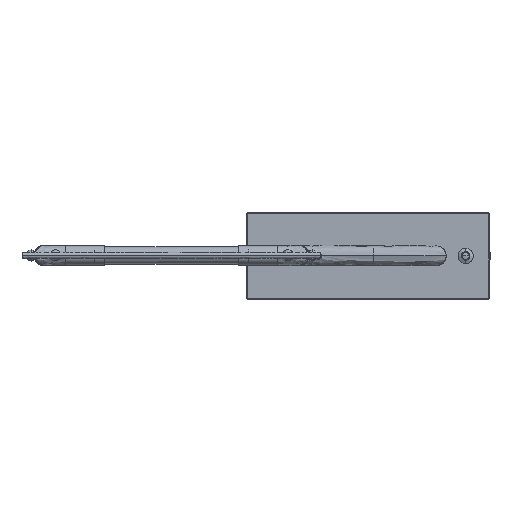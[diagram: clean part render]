
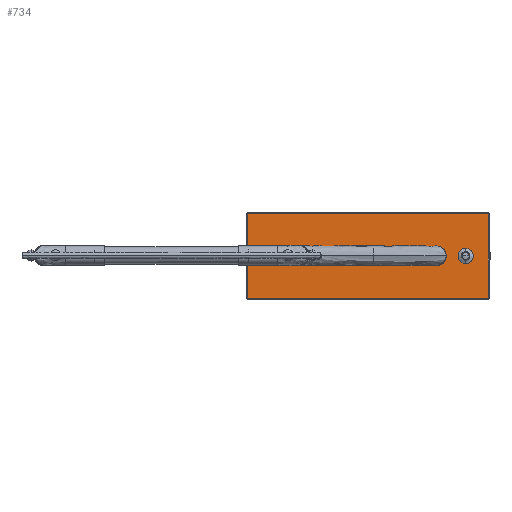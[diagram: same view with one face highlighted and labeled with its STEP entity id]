
A CAD part, top view. The second image highlights one B-rep face of the part: STEP entity #734.
In plain terms, the highlighted planar face has unit normal (0, 0, 1).
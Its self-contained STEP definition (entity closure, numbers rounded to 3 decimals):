
#734=ADVANCED_FACE('',(#1055,#999,#1000,#1001),#4796,.T.);
#999=FACE_BOUND('',#1334,.T.);
#1000=FACE_BOUND('',#1335,.T.);
#1001=FACE_BOUND('',#1336,.T.);
#1055=FACE_OUTER_BOUND('',#1333,.T.);
#1333=EDGE_LOOP('',(#1692,#1693,#1694,#1695));
#1334=EDGE_LOOP('',(#1696,#1697));
#1335=EDGE_LOOP('',(#1698,#1699));
#1336=EDGE_LOOP('',(#1700,#1701,#1702));
#1692=ORIENTED_EDGE('',*,*,#2814,.T.);
#1693=ORIENTED_EDGE('',*,*,#2815,.T.);
#1694=ORIENTED_EDGE('',*,*,#2812,.T.);
#1695=ORIENTED_EDGE('',*,*,#2813,.T.);
#1696=ORIENTED_EDGE('',*,*,#2822,.T.);
#1697=ORIENTED_EDGE('',*,*,#2821,.T.);
#1698=ORIENTED_EDGE('',*,*,#2820,.T.);
#1699=ORIENTED_EDGE('',*,*,#2819,.T.);
#1700=ORIENTED_EDGE('',*,*,#2817,.T.);
#1701=ORIENTED_EDGE('',*,*,#2816,.T.);
#1702=ORIENTED_EDGE('',*,*,#2818,.T.);
#2812=EDGE_CURVE('',#4130,#4128,#3458,.T.);
#2813=EDGE_CURVE('',#4128,#4129,#3459,.T.);
#2814=EDGE_CURVE('',#4129,#4131,#3460,.T.);
#2815=EDGE_CURVE('',#4131,#4130,#3461,.T.);
#2816=EDGE_CURVE('',#4132,#4133,#3857,.T.);
#2817=EDGE_CURVE('',#4134,#4132,#3858,.T.);
#2818=EDGE_CURVE('',#4133,#4134,#3859,.T.);
#2819=EDGE_CURVE('',#4136,#4135,#3860,.T.);
#2820=EDGE_CURVE('',#4135,#4136,#3861,.T.);
#2821=EDGE_CURVE('',#4138,#4137,#3862,.T.);
#2822=EDGE_CURVE('',#4137,#4138,#3863,.T.);
#3458=B_SPLINE_CURVE_WITH_KNOTS('',1,(#5345,#5346),.UNSPECIFIED.,.F.,.F.,
(2,2),(0.,308.),.UNSPECIFIED.);
#3459=B_SPLINE_CURVE_WITH_KNOTS('',1,(#5347,#5348),.UNSPECIFIED.,.F.,.F.,
(2,2),(0.,108.),.UNSPECIFIED.);
#3460=B_SPLINE_CURVE_WITH_KNOTS('',1,(#5349,#5350),.UNSPECIFIED.,.F.,.F.,
(2,2),(0.,308.),.UNSPECIFIED.);
#3461=B_SPLINE_CURVE_WITH_KNOTS('',1,(#5351,#5352),.UNSPECIFIED.,.F.,.F.,
(2,2),(0.,108.),.UNSPECIFIED.);
#3857=(
BOUNDED_CURVE()
B_SPLINE_CURVE(2,(#5353,#5354,#5355,#5356,#5357),.UNSPECIFIED.,.F.,.F.)
B_SPLINE_CURVE_WITH_KNOTS((3,2,3),(0.,7.854,15.708),
 .UNSPECIFIED.)
CURVE()
GEOMETRIC_REPRESENTATION_ITEM()
RATIONAL_B_SPLINE_CURVE((1.,0.707,1.,0.707,1.))
REPRESENTATION_ITEM('')
);
#3858=(
BOUNDED_CURVE()
B_SPLINE_CURVE(2,(#5358,#5359,#5360),.UNSPECIFIED.,.F.,.F.)
B_SPLINE_CURVE_WITH_KNOTS((3,3),(0.,7.854),.UNSPECIFIED.)
CURVE()
GEOMETRIC_REPRESENTATION_ITEM()
RATIONAL_B_SPLINE_CURVE((1.,0.707,1.))
REPRESENTATION_ITEM('')
);
#3859=(
BOUNDED_CURVE()
B_SPLINE_CURVE(2,(#5361,#5362,#5363),.UNSPECIFIED.,.F.,.F.)
B_SPLINE_CURVE_WITH_KNOTS((3,3),(0.,7.854),.UNSPECIFIED.)
CURVE()
GEOMETRIC_REPRESENTATION_ITEM()
RATIONAL_B_SPLINE_CURVE((1.,0.707,1.))
REPRESENTATION_ITEM('')
);
#3860=(
BOUNDED_CURVE()
B_SPLINE_CURVE(2,(#5364,#5365,#5366,#5367,#5368),.UNSPECIFIED.,.F.,.F.)
B_SPLINE_CURVE_WITH_KNOTS((3,2,3),(0.,8.639,17.279),
 .UNSPECIFIED.)
CURVE()
GEOMETRIC_REPRESENTATION_ITEM()
RATIONAL_B_SPLINE_CURVE((1.,0.707,1.,0.707,1.))
REPRESENTATION_ITEM('')
);
#3861=(
BOUNDED_CURVE()
B_SPLINE_CURVE(2,(#5369,#5370,#5371,#5372,#5373),.UNSPECIFIED.,.F.,.F.)
B_SPLINE_CURVE_WITH_KNOTS((3,2,3),(0.,8.639,17.279),
 .UNSPECIFIED.)
CURVE()
GEOMETRIC_REPRESENTATION_ITEM()
RATIONAL_B_SPLINE_CURVE((1.,0.707,1.,0.707,1.))
REPRESENTATION_ITEM('')
);
#3862=(
BOUNDED_CURVE()
B_SPLINE_CURVE(2,(#5374,#5375,#5376,#5377,#5378),.UNSPECIFIED.,.F.,.F.)
B_SPLINE_CURVE_WITH_KNOTS((3,2,3),(0.,8.639,17.279),
 .UNSPECIFIED.)
CURVE()
GEOMETRIC_REPRESENTATION_ITEM()
RATIONAL_B_SPLINE_CURVE((1.,0.707,1.,0.707,1.))
REPRESENTATION_ITEM('')
);
#3863=(
BOUNDED_CURVE()
B_SPLINE_CURVE(2,(#5379,#5380,#5381,#5382,#5383),.UNSPECIFIED.,.F.,.F.)
B_SPLINE_CURVE_WITH_KNOTS((3,2,3),(0.,8.639,17.279),
 .UNSPECIFIED.)
CURVE()
GEOMETRIC_REPRESENTATION_ITEM()
RATIONAL_B_SPLINE_CURVE((1.,0.707,1.,0.707,1.))
REPRESENTATION_ITEM('')
);
#4128=VERTEX_POINT('',#5334);
#4129=VERTEX_POINT('',#5335);
#4130=VERTEX_POINT('',#5336);
#4131=VERTEX_POINT('',#5337);
#4132=VERTEX_POINT('',#5338);
#4133=VERTEX_POINT('',#5339);
#4134=VERTEX_POINT('',#5340);
#4135=VERTEX_POINT('',#5341);
#4136=VERTEX_POINT('',#5342);
#4137=VERTEX_POINT('',#5343);
#4138=VERTEX_POINT('',#5344);
#4796=PLANE('',#4886);
#4886=AXIS2_PLACEMENT_3D('',#5333,#4960,$);
#4960=DIRECTION('',(0.,0.,1.));
#5333=CARTESIAN_POINT('',(-14.4,-59.4,30.));
#5334=CARTESIAN_POINT('',(1.,54.,30.));
#5335=CARTESIAN_POINT('',(1.,-54.,30.));
#5336=CARTESIAN_POINT('',(309.,54.,30.));
#5337=CARTESIAN_POINT('',(309.,-54.,30.));
#5338=CARTESIAN_POINT('',(280.,-5.,30.));
#5339=CARTESIAN_POINT('',(280.,5.,30.));
#5340=CARTESIAN_POINT('',(285.,0.,30.));
#5341=CARTESIAN_POINT('',(235.5,0.,30.));
#5342=CARTESIAN_POINT('',(224.5,0.,30.));
#5343=CARTESIAN_POINT('',(85.5,0.,30.));
#5344=CARTESIAN_POINT('',(74.5,0.,30.));
#5345=CARTESIAN_POINT('',(309.,54.,30.));
#5346=CARTESIAN_POINT('',(1.,54.,30.));
#5347=CARTESIAN_POINT('',(1.,54.,30.));
#5348=CARTESIAN_POINT('',(1.,-54.,30.));
#5349=CARTESIAN_POINT('',(1.,-54.,30.));
#5350=CARTESIAN_POINT('',(309.,-54.,30.));
#5351=CARTESIAN_POINT('',(309.,-54.,30.));
#5352=CARTESIAN_POINT('',(309.,54.,30.));
#5353=CARTESIAN_POINT('',(280.,-5.,30.));
#5354=CARTESIAN_POINT('',(275.,-5.,30.));
#5355=CARTESIAN_POINT('',(275.,0.,30.));
#5356=CARTESIAN_POINT('',(275.,5.,30.));
#5357=CARTESIAN_POINT('',(280.,5.,30.));
#5358=CARTESIAN_POINT('',(285.,0.,30.));
#5359=CARTESIAN_POINT('',(285.,-5.,30.));
#5360=CARTESIAN_POINT('',(280.,-5.,30.));
#5361=CARTESIAN_POINT('',(280.,5.,30.));
#5362=CARTESIAN_POINT('',(285.,5.,30.));
#5363=CARTESIAN_POINT('',(285.,0.,30.));
#5364=CARTESIAN_POINT('',(224.5,0.,30.));
#5365=CARTESIAN_POINT('',(224.5,5.5,30.));
#5366=CARTESIAN_POINT('',(230.,5.5,30.));
#5367=CARTESIAN_POINT('',(235.5,5.5,30.));
#5368=CARTESIAN_POINT('',(235.5,0.,30.));
#5369=CARTESIAN_POINT('',(235.5,0.,30.));
#5370=CARTESIAN_POINT('',(235.5,-5.5,30.));
#5371=CARTESIAN_POINT('',(230.,-5.5,30.));
#5372=CARTESIAN_POINT('',(224.5,-5.5,30.));
#5373=CARTESIAN_POINT('',(224.5,0.,30.));
#5374=CARTESIAN_POINT('',(74.5,0.,30.));
#5375=CARTESIAN_POINT('',(74.5,5.5,30.));
#5376=CARTESIAN_POINT('',(80.,5.5,30.));
#5377=CARTESIAN_POINT('',(85.5,5.5,30.));
#5378=CARTESIAN_POINT('',(85.5,0.,30.));
#5379=CARTESIAN_POINT('',(85.5,0.,30.));
#5380=CARTESIAN_POINT('',(85.5,-5.5,30.));
#5381=CARTESIAN_POINT('',(80.,-5.5,30.));
#5382=CARTESIAN_POINT('',(74.5,-5.5,30.));
#5383=CARTESIAN_POINT('',(74.5,0.,30.));
